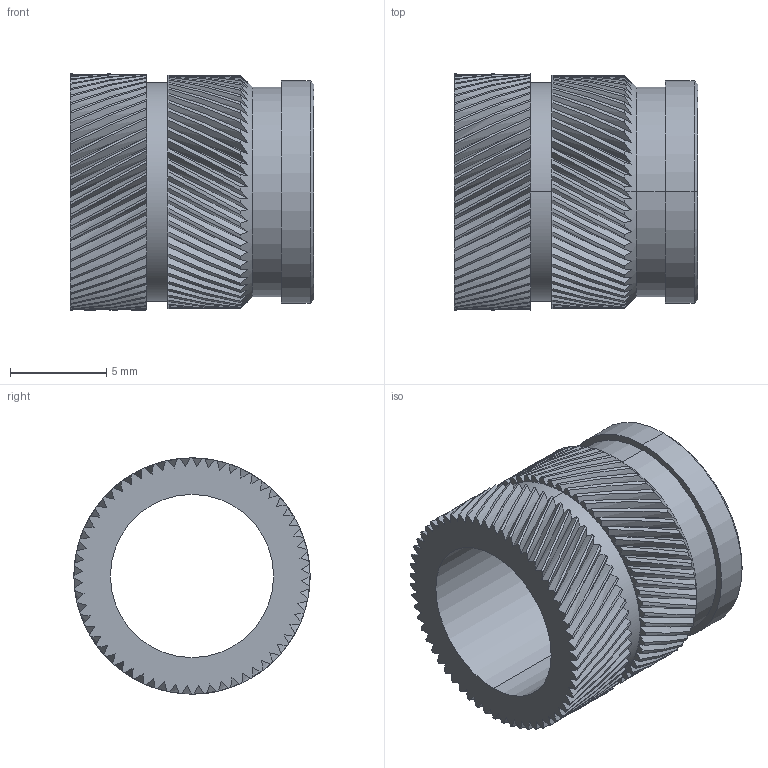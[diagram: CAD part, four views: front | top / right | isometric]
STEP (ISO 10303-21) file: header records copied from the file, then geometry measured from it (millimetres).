
FILE_DESCRIPTION (( 'STEP AP203' ), '1' );
FILE_NAME ('FSUK-HIS-M10.STEP', '2021-04-06T08:32:16', ( '' ), ( '' ), 'SwSTEP 2.0', 'SolidWorks 2021', '' );
FILE_SCHEMA (( 'CONFIG_CONTROL_DESIGN' ));
Length unit declared in the file: millimetre
Products named in the file (1): FSUK-HIS-M10
Bounding box: 12.7 x 12.3 x 12.3 mm (x, y, z)
Volume: 633 mm3; surface area: 1211 mm2
Topology: 1 solids, 1 shells, 504 faces, 1253 edges, 752 vertices
Faces by surface type: bspline 240, cylinder 135, plane 123, cone 6
Entity records: 59404 total; most frequent: CARTESIAN_POINT 50302, ORIENTED_EDGE 2506, DIRECTION 1305, EDGE_CURVE 1253, VERTEX_POINT 752, AXIS2_PLACEMENT_3D 642, EDGE_LOOP 507, ADVANCED_FACE 504
